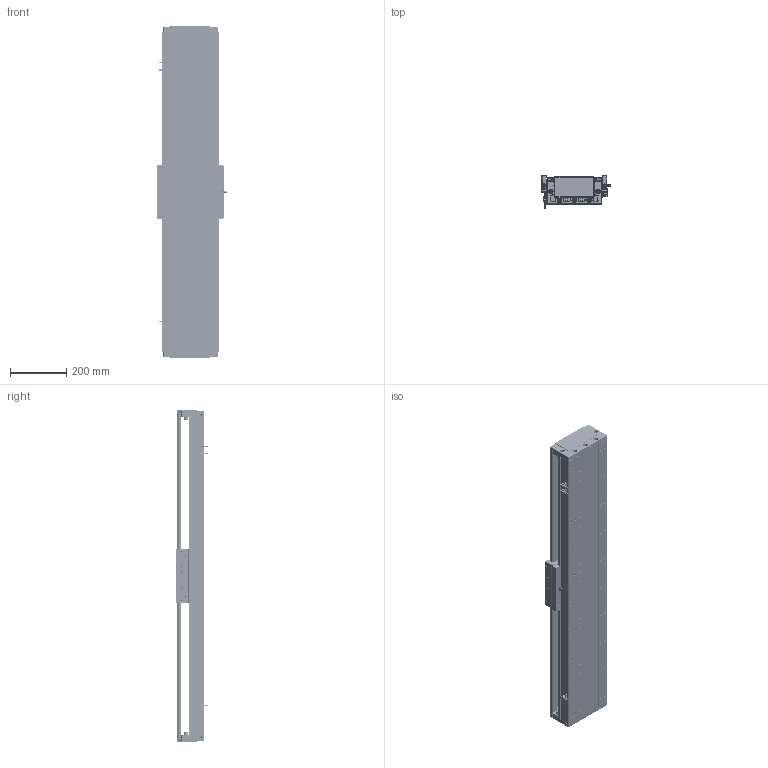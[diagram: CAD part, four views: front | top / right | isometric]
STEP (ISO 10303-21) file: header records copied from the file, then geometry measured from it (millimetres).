
FILE_DESCRIPTION (( 'STEP AP203' ), '1' );
FILE_NAME ('DA-C195-C2-T900-C010-0.2 眻盄萇儂.STEP', '2025-08-15T01:23:21', ( '' ), ( '' ), 'SwSTEP 2.0', 'SolidWorks 2019', '' );
FILE_SCHEMA (( 'CONFIG_CONTROL_DESIGN' ));
Length unit declared in the file: millimetre
Products named in the file (12): DA95-HXJ-00 遣喳砎蝶; LMT黍杅芛; DA-C195-C2-T900-C010-0.2 眻盄萇儂; IU-CU195-L-00 菁釱(L1140); CU195-C2賑輸-俋楷; IU-CU195-L 菁釱絳寢; PM-T45ㄗ侂狟ㄘ; MS200 棠掑喜S315-T240; 66156-0001-003-00 裔啣; DA195-DG-H-00  端盖（压铸镂空版）; 66156-0001-005-00 光电感应片(默认); 葩璃 DA95-GT-T-00
Assembly tree (20 placements, depth 3):
  DA-C195-C2-T900-C010-0.2 眻盄萇儂
    IU-CU195-L 菁釱絳寢
      IU-CU195-L-00 菁釱(L1140)
      葩璃 DA95-GT-T-00  x4
    LMT黍杅芛
    MS200 棠掑喜S315-T240
    PM-T45ㄗ侂狟ㄘ  x3
    66156-0001-005-00 光电感应片(默认)
    DA195-DG-H-00  端盖（压铸镂空版）  x2
    DA95-HXJ-00 遣喳砎蝶  x4
    66156-0001-003-00 裔啣
    CU195-C2賑輸-俋楷
Bounding box: 248 x 115.6 x 1180 mm (x, y, z)
Volume: 8295788.2 mm3; surface area: 2372439.3 mm2
Topology: 58 solids, 130 shells, 5255 faces, 13436 edges, 8169 vertices
Faces by surface type: cylinder 2269, plane 1636, bspline 710, cone 560, torus 44, sphere 36
Entity records: 145457 total; most frequent: CARTESIAN_POINT 45351, ORIENTED_EDGE 20926, DIRECTION 20088, EDGE_CURVE 10463, AXIS2_PLACEMENT_3D 7475, VERTEX_POINT 6599, LINE 5138, VECTOR 5138
